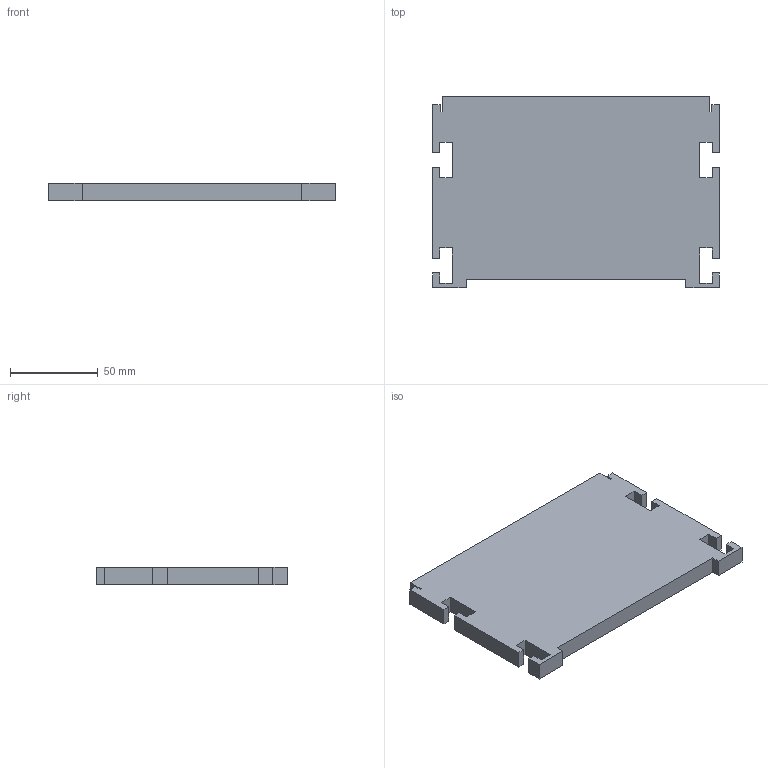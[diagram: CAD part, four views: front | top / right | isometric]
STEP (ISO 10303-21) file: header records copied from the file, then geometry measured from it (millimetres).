
FILE_DESCRIPTION (( 'STEP AP214' ), '1' );
FILE_NAME ('160 baan.STEP', '2017-02-08T12:29:51', ( '' ), ( '' ), 'SwSTEP 2.0', 'SolidWorks 2016', '' );
FILE_SCHEMA (( 'AUTOMOTIVE_DESIGN' ));
Length unit declared in the file: millimetre
Products named in the file (1): 160 baan
Bounding box: 163 x 109 x 10 mm (x, y, z)
Volume: 164205.6 mm3; surface area: 40389.1 mm2
Topology: 1 solids, 1 shells, 54 faces, 156 edges, 104 vertices
Faces by surface type: plane 54
Entity records: 1774 total; most frequent: CARTESIAN_POINT 315, ORIENTED_EDGE 312, DIRECTION 266, LINE 156, EDGE_CURVE 156, VECTOR 156, VERTEX_POINT 104, AXIS2_PLACEMENT_3D 55
